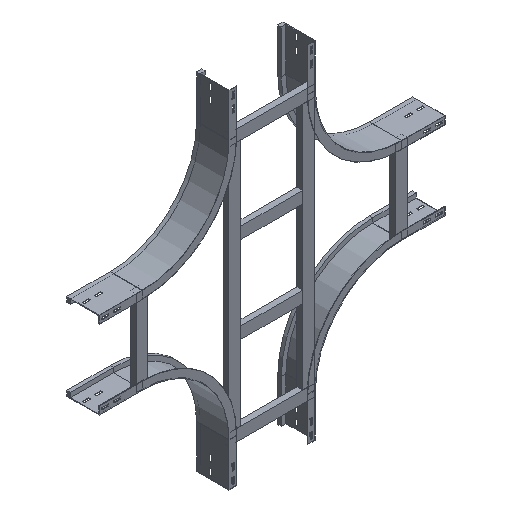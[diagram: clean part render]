
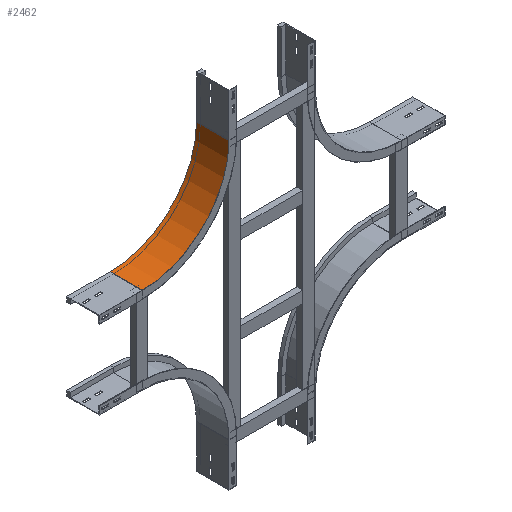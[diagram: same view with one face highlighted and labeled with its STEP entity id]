
A CAD part, isometric view. The second image highlights one B-rep face of the part: STEP entity #2462.
In plain terms, the highlighted cylindrical face has radius 300 mm (diameter 600 mm), a partial arc.
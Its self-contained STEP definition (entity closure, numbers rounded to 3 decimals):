
#81 = CARTESIAN_POINT ( 'NONE',  ( 300., 0., -150. ) ) ;
#218 = FACE_OUTER_BOUND ( 'NONE', #1043, .T. ) ;
#240 = LINE ( 'NONE', #845, #482 ) ;
#303 = AXIS2_PLACEMENT_3D ( 'NONE', #1523, #2082, #1715 ) ;
#308 = CIRCLE ( 'NONE', #1621, 300. ) ;
#482 = VECTOR ( 'NONE', #858, 1000. ) ;
#497 = ORIENTED_EDGE ( 'NONE', *, *, #1690, .T. ) ;
#550 = VERTEX_POINT ( 'NONE', #2119 ) ;
#599 = CARTESIAN_POINT ( 'NONE',  ( 300., 0., -150. ) ) ;
#632 = CIRCLE ( 'NONE', #303, 300. ) ;
#639 = VECTOR ( 'NONE', #2254, 1000. ) ;
#691 = CARTESIAN_POINT ( 'NONE',  ( 0., 0., -150. ) ) ;
#711 = AXIS2_PLACEMENT_3D ( 'NONE', #81, #2397, #1456 ) ;
#727 = LINE ( 'NONE', #691, #639 ) ;
#845 = CARTESIAN_POINT ( 'NONE',  ( 300., 0., -450. ) ) ;
#858 = DIRECTION ( 'NONE',  ( 0., 1., 0. ) ) ;
#1043 = EDGE_LOOP ( 'NONE', ( #1714, #1985, #497, #2320 ) ) ;
#1185 = DIRECTION ( 'NONE',  ( -1., 0., 0. ) ) ;
#1298 = VERTEX_POINT ( 'NONE', #1437 ) ;
#1371 = EDGE_CURVE ( 'NONE', #1397, #1434, #240, .T. ) ;
#1374 = DIRECTION ( 'NONE',  ( 0., -1., 0. ) ) ;
#1397 = VERTEX_POINT ( 'NONE', #1601 ) ;
#1434 = VERTEX_POINT ( 'NONE', #1685 ) ;
#1437 = CARTESIAN_POINT ( 'NONE',  ( 0., 0., -150. ) ) ;
#1456 = DIRECTION ( 'NONE',  ( 0., 0., -1. ) ) ;
#1502 = EDGE_CURVE ( 'NONE', #1298, #550, #727, .T. ) ;
#1523 = CARTESIAN_POINT ( 'NONE',  ( 300., 112.5, -150. ) ) ;
#1601 = CARTESIAN_POINT ( 'NONE',  ( 300., 0., -450. ) ) ;
#1620 = CYLINDRICAL_SURFACE ( 'NONE', #711, 300. ) ;
#1621 = AXIS2_PLACEMENT_3D ( 'NONE', #599, #1374, #1185 ) ;
#1685 = CARTESIAN_POINT ( 'NONE',  ( 300., 112.5, -450. ) ) ;
#1690 = EDGE_CURVE ( 'NONE', #1298, #1397, #308, .T. ) ;
#1714 = ORIENTED_EDGE ( 'NONE', *, *, #2198, .F. ) ;
#1715 = DIRECTION ( 'NONE',  ( -1., 0., 0. ) ) ;
#1985 = ORIENTED_EDGE ( 'NONE', *, *, #1502, .F. ) ;
#2082 = DIRECTION ( 'NONE',  ( 0., -1., 0. ) ) ;
#2119 = CARTESIAN_POINT ( 'NONE',  ( 0., 112.5, -150. ) ) ;
#2198 = EDGE_CURVE ( 'NONE', #550, #1434, #632, .T. ) ;
#2254 = DIRECTION ( 'NONE',  ( 0., 1., 0. ) ) ;
#2320 = ORIENTED_EDGE ( 'NONE', *, *, #1371, .T. ) ;
#2397 = DIRECTION ( 'NONE',  ( 0., -1., 0. ) ) ;
#2462 = ADVANCED_FACE ( 'NONE', ( #218 ), #1620, .F. ) ;
